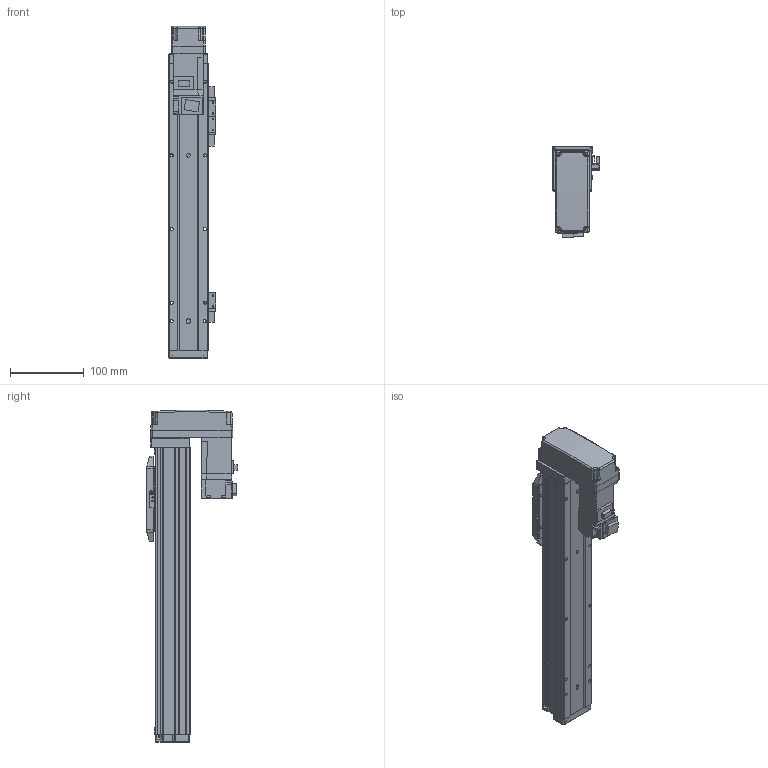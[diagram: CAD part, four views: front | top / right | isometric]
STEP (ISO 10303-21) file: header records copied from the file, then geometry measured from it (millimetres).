
FILE_DESCRIPTION (( 'STEP AP214' ), '1' );
FILE_NAME ('N_GRH5-250-BM-M10.step', '2025-03-14T10:50:42', ( '' ), ( '' ), 'SwSTEP 2.0', 'SolidWorks 2016', '' );
FILE_SCHEMA (( 'AUTOMOTIVE_DESIGN' ));
Length unit declared in the file: millimetre
Products named in the file (5): N_GRH5-GY-011^N_GRH5-250-BM-M10; N_GRH5-GY-004^N_GRH5-250-BM-M10; HF-KP13_100W_Motor^N_GRH5-250-BM-M10; N_GRH5-250-BM-M10; N_GRH5-BL-008^N_GRH5-250-BM-M10
Assembly tree (4 placements, depth 2):
  N_GRH5-250-BM-M10
    N_GRH5-GY-011^N_GRH5-250-BM-M10
    N_GRH5-GY-004^N_GRH5-250-BM-M10
    HF-KP13_100W_Motor^N_GRH5-250-BM-M10
    N_GRH5-BL-008^N_GRH5-250-BM-M10
Bounding box: 64.05 x 123.7 x 450.5 mm (x, y, z)
Volume: 1044559.7 mm3; surface area: 249662.2 mm2
Topology: 4 solids, 5 shells, 934 faces, 2384 edges, 1509 vertices
Faces by surface type: plane 547, cylinder 312, cone 50, bspline 15, sphere 10
Entity records: 35587 total; most frequent: CARTESIAN_POINT 5593, DIRECTION 4805, ORIENTED_EDGE 4704, EDGE_CURVE 2352, VECTOR 1635, LINE 1635, AXIS2_PLACEMENT_3D 1585, VERTEX_POINT 1507
